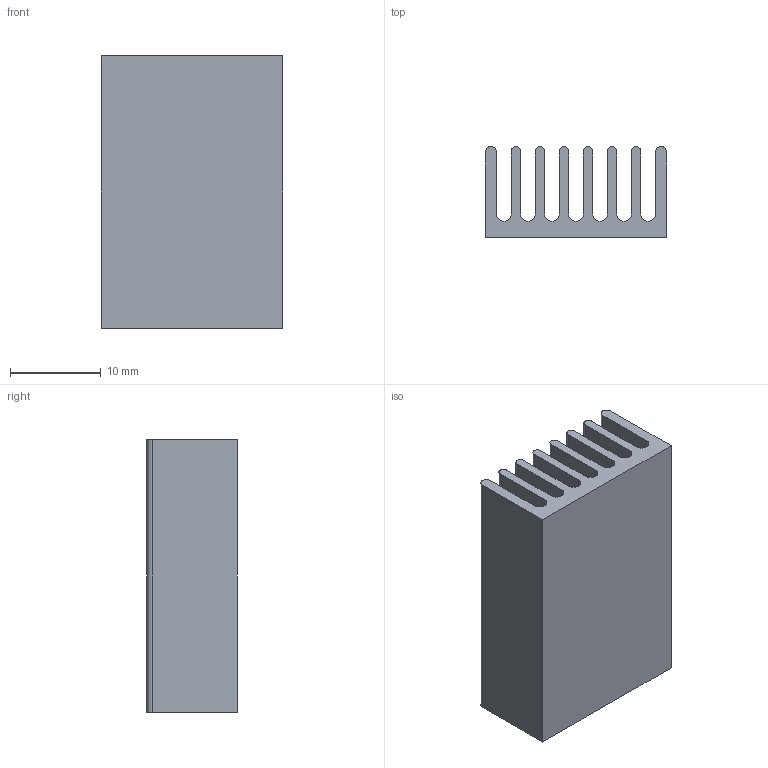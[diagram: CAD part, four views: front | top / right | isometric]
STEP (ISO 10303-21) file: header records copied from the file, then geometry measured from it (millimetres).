
FILE_DESCRIPTION (( 'STEP AP203' ), '1' );
FILE_NAME ('PR45.STEP', '2020-05-20T11:14:59', ( '' ), ( '' ), 'SwSTEP 2.0', 'SolidWorks 2020', '' );
FILE_SCHEMA (( 'CONFIG_CONTROL_DESIGN' ));
Length unit declared in the file: millimetre
Products named in the file (1): PR45
Bounding box: 20 x 10 x 30 mm (x, y, z)
Volume: 3176 mm3; surface area: 5219.2 mm2
Topology: 1 solids, 1 shells, 34 faces, 96 edges, 64 vertices
Faces by surface type: plane 19, cylinder 15
Entity records: 1187 total; most frequent: DIRECTION 196, CARTESIAN_POINT 195, ORIENTED_EDGE 192, EDGE_CURVE 96, VECTOR 66, LINE 66, AXIS2_PLACEMENT_3D 65, VERTEX_POINT 64
